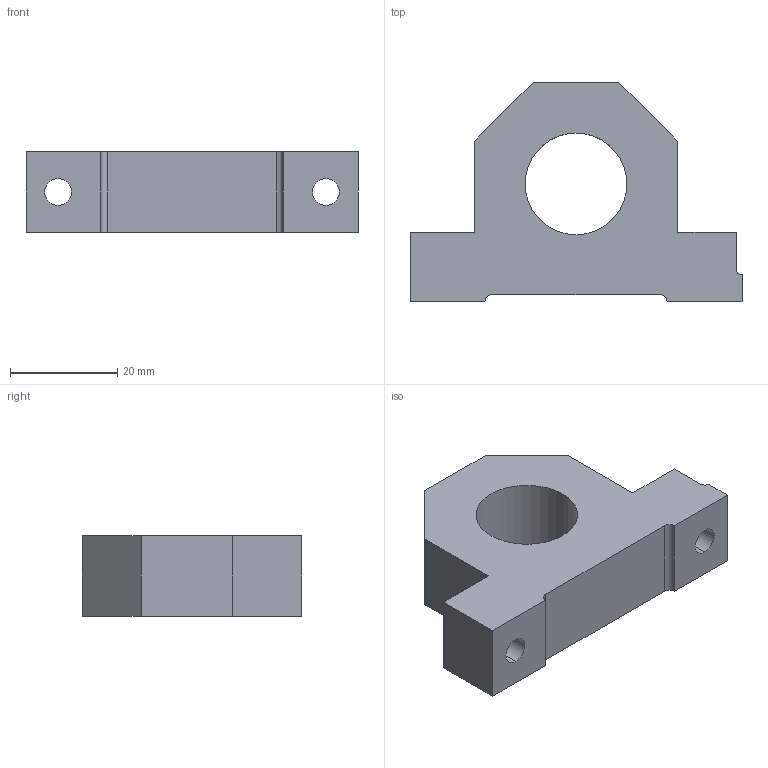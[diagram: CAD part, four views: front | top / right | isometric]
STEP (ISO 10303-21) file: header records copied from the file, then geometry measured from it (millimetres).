
FILE_DESCRIPTION (( 'STEP AP203' ), '1' );
FILE_NAME ('SLA-06.STEP', '2002-08-15T13:51:31', ( '.' ), ( '.' ), 'SwSTEP 2.0', 'SolidWorks 2001340', '' );
FILE_SCHEMA (( 'CONFIG_CONTROL_DESIGN' ));
Length unit declared in the file: millimetre
Products named in the file (1): SLA-06
Bounding box: 62 x 41 x 15 mm (x, y, z)
Volume: 20702.7 mm3; surface area: 6966.2 mm2
Topology: 1 solids, 1 shells, 24 faces, 66 edges, 44 vertices
Faces by surface type: plane 15, cylinder 9
Entity records: 857 total; most frequent: CARTESIAN_POINT 135, DIRECTION 134, ORIENTED_EDGE 132, EDGE_CURVE 66, LINE 48, VECTOR 48, VERTEX_POINT 44, AXIS2_PLACEMENT_3D 43
